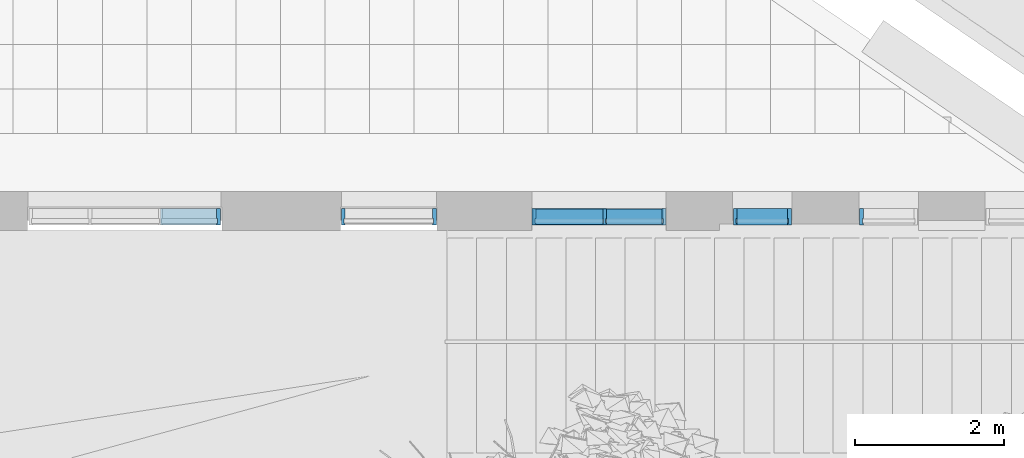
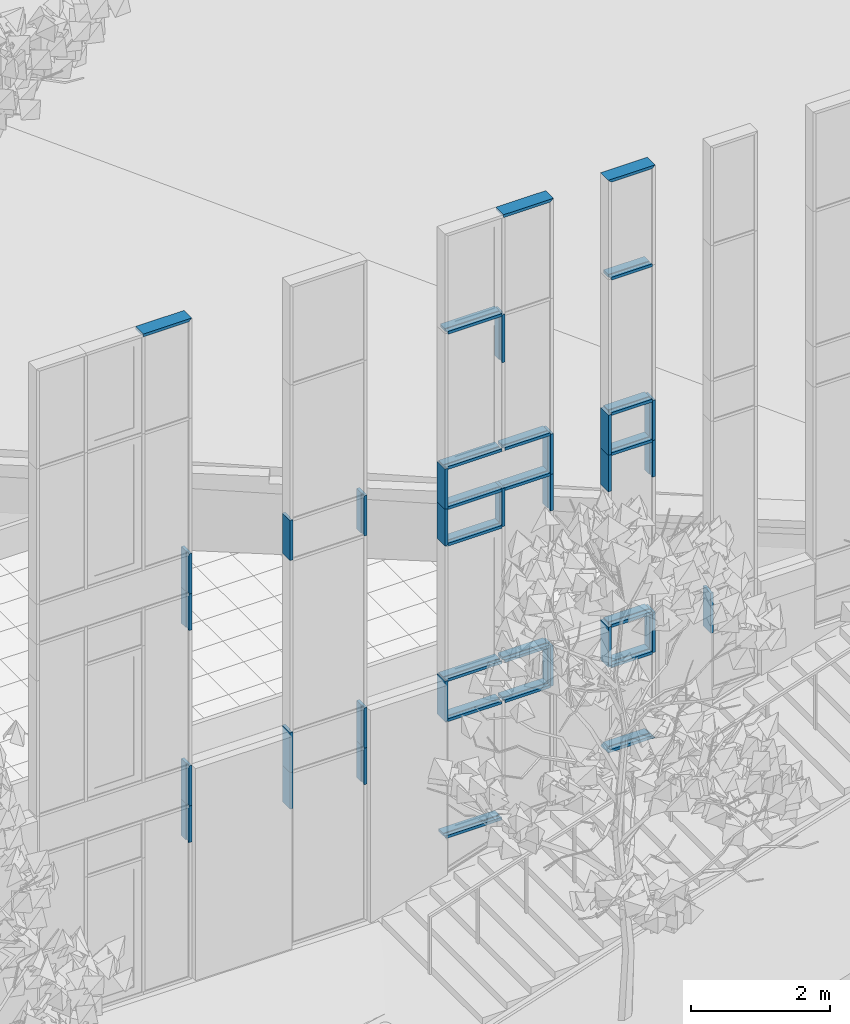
# One storey, part 46 of 246: 45 members, 5 elements without a shape of their own.
"""IFC2X3 building model written with IfcOpenShell, lengths in millimetres."""

from ifc_helpers import new_model, entity, si_unit, converted_unit, derived_unit, money_unit, direction, frame, origin_with_axes, place, context, subcontext, project, spatial, faceted_brep, source, transform, mapped, material, type_object, element, aggregate, save


model = new_model("IFC2X3")

# Units and contexts
model_context = context("Model", 3, precision=0.01, world=origin_with_axes(), true_north=direction((0.0, 1.0)))
body_context = subcontext(model_context, "Body", "Model", "MODEL_VIEW")
ifc_project = project(units=[si_unit("LENGTHUNIT", "METRE", prefix="MILLI"), si_unit("AREAUNIT", "SQUARE_METRE"), si_unit("VOLUMEUNIT", "CUBIC_METRE"), converted_unit("PLANEANGLEUNIT", "DEGREE", entity("IfcPlaneAngleMeasure", 0.0174532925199), si_unit("PLANEANGLEUNIT", "RADIAN"), dimensions=[0, 0, 0, 0, 0, 0, 0]), si_unit("SOLIDANGLEUNIT", "STERADIAN"), money_unit("EUR"), converted_unit("TIMEUNIT", "Year", entity("IfcTimeMeasure", 31556926.0), si_unit("TIMEUNIT", "SECOND"), dimensions=[0, 0, 1, 0, 0, 0, 0]), si_unit("MASSUNIT", "GRAM", prefix="KILO"), si_unit("THERMODYNAMICTEMPERATUREUNIT", "DEGREE_CELSIUS"), si_unit("LUMINOUSINTENSITYUNIT", "LUMEN"), si_unit("ENERGYUNIT", "JOULE", prefix="MEGA"), derived_unit("THERMALCONDUCTANCEUNIT", [(si_unit("POWERUNIT", "WATT"), 1), (si_unit("LENGTHUNIT", "METRE"), -1), (si_unit("THERMODYNAMICTEMPERATUREUNIT", "KELVIN"), -1)]), derived_unit("SPECIFICHEATCAPACITYUNIT", [(si_unit("ENERGYUNIT", "JOULE"), 1), (si_unit("MASSUNIT", "GRAM", prefix="KILO"), -1), (si_unit("THERMODYNAMICTEMPERATUREUNIT", "KELVIN"), -1)]), derived_unit("MASSDENSITYUNIT", [(si_unit("MASSUNIT", "GRAM", prefix="KILO"), 1), (si_unit("VOLUMEUNIT", "CUBIC_METRE"), -1)])], contexts=[model_context])

# Site, building, storey
site_placement = place(None, origin_with_axes())
site = spatial("IfcSite", under=ifc_project, at=site_placement, Name="L.Koidula tn 11b", CompositionType="ELEMENT")
building_placement = place(site_placement, origin_with_axes())
building = spatial("IfcBuilding", under=site, at=building_placement, Name="Rakvere Riigigümnaasium", CompositionType="ELEMENT")
storey_placement = place(building_placement, origin_with_axes())
storey = spatial("IfcBuildingStorey", under=building, at=storey_placement, Name="1.korrus 0,00", CompositionType="ELEMENT", Elevation=0.0)

# Curtain wall, members
curtain_wall_type = type_object("IfcCurtainWallType", Name="Curtain Wall Type", PredefinedType="NOTDEFINED")
curtain_wall_1_placement = place(storey_placement, frame((98799.9667993, 5111.45595337, 1534.99996364), z_axis=(0.0, 0.0, 1.0), x_axis=(1.0, 0.0, 0.0)))
curtain_wall_1 = element("IfcCurtainWall", 1, at=curtain_wall_1_placement, inside=storey, type_object=curtain_wall_type, Name="KLF-05-4A1")
ifc_material = material(Name="Alumiiniumprofiil (RAL 7021)")
member_type_1 = type_object("IfcMemberType", Name="Boundary Frame 50 x 222", PredefinedType="MULLION")
shared_shape_1 = source(origin_with_axes(), body_context, "Body", "Brep", [
    faceted_brep([(37.0, -32.5, 705.000000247), (37.0, 32.5, 705.000000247), (50.0, 32.5, 705.000000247), (50.0, 53.0, 705.000000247), (0.0, 53.0, 705.000000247), (0.0, -169.0, 705.000000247), (50.0, -169.0, 705.000000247), (50.0, -32.5, 705.000000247), (37.0, -32.5, 0.0), (37.0, 32.5, 0.0), (50.0, 32.5, 0.0), (50.0, 53.0, 0.0), (0.0, 53.0, 0.0), (0.0, -169.0, 0.0), (50.0, -169.0, 0.0), (50.0, -32.5, 0.0)], [[[0, 1, 2, 3, 4, 5, 6, 7]], [[1, 0, 8, 9]], [[10, 2, 1, 9]], [[2, 10, 11, 3]], [[12, 4, 3, 11]], [[13, 5, 4, 12]], [[14, 6, 5, 13]], [[15, 7, 6, 14]], [[0, 7, 15, 8]], [[8, 15, 14, 13, 12, 11, 10, 9]]]),
])
member_1_placement = place(curtain_wall_1_placement, frame((-389.999935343, -0.0026063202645, 2210.00002826), z_axis=(0.0, 0.0, -1.0), x_axis=(0.999999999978, 6.68287358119e-06, 0.0)))
member_1 = element("IfcMember", 2, at=member_1_placement, type_object=member_type_1, material=ifc_material, Name="KLF-05-7A-Profiilid", ObjectType="MULLION", context=body_context, shape_type="MappedRepresentation", body=[
    mapped(shared_shape_1, transform((0.0, 0.0, 0.0))),
])
member_2_placement = place(curtain_wall_1_placement, frame((-389.999935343, -0.0026063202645, 5930.00002826), z_axis=(0.0, 0.0, -1.0), x_axis=(0.999999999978, 6.68287358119e-06, 0.0)))
member_2 = element("IfcMember", 3, at=member_2_placement, type_object=member_type_1, material=ifc_material, Name="KLF-05-4A-Profiilid", ObjectType="MULLION", context=body_context, shape_type="MappedRepresentation", body=[
    mapped(shared_shape_1, transform((0.0, 0.0, 0.0))),
])
member_3_placement = place(curtain_wall_1_placement, frame((389.999935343, 0.00260632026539, 5225.00002826), z_axis=(0.0, 0.0, 1.0), x_axis=(-0.999999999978, -6.68287358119e-06, 0.0)))
member_3 = element("IfcMember", 4, at=member_3_placement, type_object=member_type_1, material=ifc_material, Name="KLF-05-8A-Profiilid", ObjectType="MULLION", context=body_context, shape_type="MappedRepresentation", body=[
    mapped(shared_shape_1, transform((0.0, 0.0, 0.0))),
])
member_4_placement = place(curtain_wall_1_placement, frame((389.999935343, 0.00260632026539, 1505.00002826), z_axis=(0.0, 0.0, 1.0), x_axis=(-0.999999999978, -6.68287358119e-06, 0.0)))
member_4 = element("IfcMember", 5, at=member_4_placement, type_object=member_type_1, material=ifc_material, Name="KLF-05-5A-Profiilid", ObjectType="MULLION", context=body_context, shape_type="MappedRepresentation", body=[
    mapped(shared_shape_1, transform((0.0, 0.0, 0.0))),
])

# Curtain wall, member
curtain_wall_2_placement = place(storey_placement, frame((100499.941472, 5111.64286466, 2044.99997146), z_axis=(0.0, 0.0, 1.0), x_axis=(1.0, 0.0, 0.0)))
curtain_wall_2 = element("IfcCurtainWall", 6, at=curtain_wall_2_placement, inside=storey, type_object=curtain_wall_type, Name="KLF-05-4A2")
member_5_placement = place(curtain_wall_2_placement, frame((-389.999798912, 0.0554782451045, 1700.0), z_axis=(0.0, 0.0, -1.0), x_axis=(0.999999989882, -0.000142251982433, 0.0)))
member_5 = element("IfcMember", 7, at=member_5_placement, type_object=member_type_1, material=ifc_material, Name="KLF-05-7A-Profiilid", ObjectType="MULLION", context=body_context, shape_type="MappedRepresentation", body=[
    mapped(shared_shape_1, transform((0.0, 0.0, 0.0))),
])
aggregate(curtain_wall_2, [member_5])

# Curtain wall, members
curtain_wall_3_placement = place(storey_placement, frame((93770.0000115, 5111.45334637, -1.61944652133e-05), z_axis=(0.0, 0.0, 1.0), x_axis=(1.0, 0.0, 0.0)))
curtain_wall_3 = element("IfcCurtainWall", 8, at=curtain_wall_3_placement, inside=storey, type_object=curtain_wall_type, Name="KLF-05-1E")
member_6_placement = place(curtain_wall_3_placement, frame((-640.000084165, 0.0, 7465.0), z_axis=(0.0, 0.0, -1.0), x_axis=(1.0, 0.0, 0.0)))
member_6 = element("IfcMember", 9, at=member_6_placement, type_object=member_type_1, material=ifc_material, Name="KLF-05-5A-Profiilid", ObjectType="MULLION", context=body_context, shape_type="MappedRepresentation", body=[
    mapped(shared_shape_1, transform((0.0, 0.0, 0.0))),
])
member_7_placement = place(curtain_wall_3_placement, frame((-640.000084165, 0.0, 3745.0), z_axis=(0.0, 0.0, -1.0), x_axis=(1.0, 0.0, 0.0)))
member_7 = element("IfcMember", 10, at=member_7_placement, type_object=member_type_1, material=ifc_material, Name="KLF-05-7A-Profiilid", ObjectType="MULLION", context=body_context, shape_type="MappedRepresentation", body=[
    mapped(shared_shape_1, transform((0.0, 0.0, 0.0))),
])
member_8_placement = place(curtain_wall_3_placement, frame((640.000084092, 0.0, 3040.0), z_axis=(0.0, 0.0, 1.0), x_axis=(-1.0, 0.0, 0.0)))
member_8 = element("IfcMember", 11, at=member_8_placement, type_object=member_type_1, material=ifc_material, Name="KLF-05-7A-Profiilid", ObjectType="MULLION", context=body_context, shape_type="MappedRepresentation", body=[
    mapped(shared_shape_1, transform((0.0, 0.0, 0.0))),
])
member_9_placement = place(curtain_wall_3_placement, frame((640.000084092, 0.0, 6760.0), z_axis=(0.0, 0.0, 1.0), x_axis=(-1.0, 0.0, 0.0)))
member_9 = element("IfcMember", 12, at=member_9_placement, type_object=member_type_1, material=ifc_material, Name="KLF-05-9A-Profiilid", ObjectType="MULLION", context=body_context, shape_type="MappedRepresentation", body=[
    mapped(shared_shape_1, transform((0.0, 0.0, 0.0))),
])

curtain_wall_4_placement = place(storey_placement, frame((96030.936158, 5111.45334637, 394.620798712), z_axis=(0.0, 0.0, 1.0), x_axis=(1.0, 0.0, 0.0)))
curtain_wall_4 = element("IfcCurtainWall", 13, at=curtain_wall_4_placement, inside=storey, type_object=curtain_wall_type, Name="KLF-05-2C")
member_10_placement = place(curtain_wall_4_placement, frame((1469.06406197, 0.0, 6365.37919319), z_axis=(0.0, 0.0, 1.0), x_axis=(-1.0, 0.0, 0.0)))
member_10 = element("IfcMember", 14, at=member_10_placement, type_object=member_type_1, material=ifc_material, Name="KLF-05-9C-Profiilid", ObjectType="MULLION", context=body_context, shape_type="MappedRepresentation", body=[
    mapped(shared_shape_1, transform((0.0, 0.0, 0.0))),
])
member_11_placement = place(curtain_wall_4_placement, frame((1469.06406197, 0.0, 2645.37919319), z_axis=(0.0, 0.0, 1.0), x_axis=(-1.0, 0.0, 0.0)))
member_11 = element("IfcMember", 15, at=member_11_placement, type_object=member_type_1, material=ifc_material, Name="KLF-05-6C-Profiilid", ObjectType="MULLION", context=body_context, shape_type="MappedRepresentation", body=[
    mapped(shared_shape_1, transform((0.0, 0.0, 0.0))),
])

curtain_wall_5_placement = place(storey_placement, frame((90220.0003282, 5111.43278481, -1.61944594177e-05), z_axis=(0.0, 0.0, 1.0), x_axis=(1.0, 0.0, 0.0)))
curtain_wall_5 = element("IfcCurtainWall", 16, at=curtain_wall_5_placement, inside=storey, type_object=curtain_wall_type, Name="KLF-05-3A")
member_12_placement = place(curtain_wall_5_placement, frame((1279.99946018, -0.0202452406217, 6760.0), z_axis=(0.0, 0.0, 1.0), x_axis=(-0.999999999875, 1.58166009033e-05, 0.0)))
member_12 = element("IfcMember", 17, at=member_12_placement, type_object=member_type_1, material=ifc_material, Name="KLF-05-0A-Profiilid", ObjectType="MULLION", context=body_context, shape_type="MappedRepresentation", body=[
    mapped(shared_shape_1, transform((0.0, 0.0, 0.0))),
])
member_13_placement = place(curtain_wall_5_placement, frame((1279.99946018, -0.0202452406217, 3040.0), z_axis=(0.0, 0.0, 1.0), x_axis=(-0.999999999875, 1.58166009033e-05, 0.0)))
member_13 = element("IfcMember", 18, at=member_13_placement, type_object=member_type_1, material=ifc_material, Name="KLF-05-7A-Profiilid", ObjectType="MULLION", context=body_context, shape_type="MappedRepresentation", body=[
    mapped(shared_shape_1, transform((0.0, 0.0, 0.0))),
])

# Member
shared_shape_2 = source(origin_with_axes(), body_context, "Body", "Brep", [
    faceted_brep([(37.0, -32.5, 640.0), (37.0, 32.5, 640.0), (50.0, 32.5, 640.0), (50.0, 53.0, 640.0), (0.0, 53.0, 640.0), (0.0, -169.0, 640.0), (50.0, -169.0, 640.0), (50.0, -32.5, 640.0), (37.0, -32.5, 0.0), (37.0, 32.5, 0.0), (50.0, 32.5, 0.0), (50.0, 53.0, 0.0), (0.0, 53.0, 0.0), (0.0, -169.0, 0.0), (50.0, -169.0, 0.0), (50.0, -32.5, 0.0)], [[[0, 1, 2, 3, 4, 5, 6, 7]], [[1, 0, 8, 9]], [[10, 2, 1, 9]], [[2, 10, 11, 3]], [[12, 4, 3, 11]], [[13, 5, 4, 12]], [[14, 6, 5, 13]], [[15, 7, 6, 14]], [[0, 7, 15, 8]], [[8, 15, 14, 13, 12, 11, 10, 9]]]),
])
member_14_placement = place(curtain_wall_1_placement, frame((-389.999935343, -0.0026063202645, 5225.00002826), z_axis=(0.0, 0.0, -1.0), x_axis=(0.999999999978, 6.68287358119e-06, 0.0)))
member_14 = element("IfcMember", 19, at=member_14_placement, type_object=member_type_1, material=ifc_material, Name="KLF-05-5A-Profiilid", ObjectType="MULLION", context=body_context, shape_type="MappedRepresentation", body=[
    mapped(shared_shape_2, transform((0.0, 0.0, 0.0))),
])

member_15_placement = place(curtain_wall_1_placement, frame((389.999935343, 0.00260632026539, 4585.00002826), z_axis=(0.0, 0.0, 1.0), x_axis=(-0.999999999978, -6.68287358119e-06, 0.0)))
member_15 = element("IfcMember", 20, at=member_15_placement, type_object=member_type_1, material=ifc_material, Name="KLF-05-7A-Profiilid", ObjectType="MULLION", context=body_context, shape_type="MappedRepresentation", body=[
    mapped(shared_shape_2, transform((0.0, 0.0, 0.0))),
])

member_16_placement = place(curtain_wall_3_placement, frame((-640.000084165, 0.0, 3040.0), z_axis=(0.0, 0.0, -1.0), x_axis=(1.0, 0.0, 0.0)))
member_16 = element("IfcMember", 21, at=member_16_placement, type_object=member_type_1, material=ifc_material, Name="KLF-05-8A-Profiilid", ObjectType="MULLION", context=body_context, shape_type="MappedRepresentation", body=[
    mapped(shared_shape_2, transform((0.0, 0.0, 0.0))),
])

member_17_placement = place(curtain_wall_3_placement, frame((640.000084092, 0.0, 2400.0), z_axis=(0.0, 0.0, 1.0), x_axis=(-1.0, 0.0, 0.0)))
member_17 = element("IfcMember", 22, at=member_17_placement, type_object=member_type_1, material=ifc_material, Name="KLF-05-6A-Profiilid", ObjectType="MULLION", context=body_context, shape_type="MappedRepresentation", body=[
    mapped(shared_shape_2, transform((0.0, 0.0, 0.0))),
])

aggregate(curtain_wall_3, [member_6, member_16, member_7, member_17, member_8, member_9])

member_18_placement = place(curtain_wall_4_placement, frame((1469.06406197, 0.0, 5725.37919319), z_axis=(0.0, 0.0, 1.0), x_axis=(-1.0, 0.0, 0.0)))
member_18 = element("IfcMember", 23, at=member_18_placement, type_object=member_type_1, material=ifc_material, Name="KLF-05-8C-Profiilid", ObjectType="MULLION", context=body_context, shape_type="MappedRepresentation", body=[
    mapped(shared_shape_2, transform((0.0, 0.0, 0.0))),
])

member_19_placement = place(curtain_wall_5_placement, frame((1279.99946018, -0.0202452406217, 6120.0), z_axis=(0.0, 0.0, 1.0), x_axis=(-0.999999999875, 1.58166009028e-05, 0.0)))
member_19 = element("IfcMember", 24, at=member_19_placement, type_object=member_type_1, material=ifc_material, Name="KLF-05-9A-Profiilid", ObjectType="MULLION", context=body_context, shape_type="MappedRepresentation", body=[
    mapped(shared_shape_2, transform((0.0, 0.0, 0.0))),
])

member_20_placement = place(curtain_wall_5_placement, frame((1279.99946018, -0.0202452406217, 2400.0), z_axis=(0.0, 0.0, 1.0), x_axis=(-0.999999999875, 1.58166009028e-05, 0.0)))
member_20 = element("IfcMember", 25, at=member_20_placement, type_object=member_type_1, material=ifc_material, Name="KLF-05-6A-Profiilid", ObjectType="MULLION", context=body_context, shape_type="MappedRepresentation", body=[
    mapped(shared_shape_2, transform((0.0, 0.0, 0.0))),
])

shared_shape_3 = source(origin_with_axes(), body_context, "Body", "Brep", [
    faceted_brep([(-37.0, -32.5, 705.0), (-50.0, -32.5, 705.0), (-50.0, -169.0, 705.0), (0.0, -169.0, 705.0), (0.0, 53.0, 705.0), (-50.0, 53.0, 705.0), (-50.0, 32.5, 705.0), (-37.0, 32.5, 705.0), (-37.0, -32.5, 0.0), (-50.0, -32.5, 0.0), (-50.0, -169.0, 0.0), (0.0, -169.0, 0.0), (0.0, 53.0, 0.0), (-50.0, 53.0, 0.0), (-50.0, 32.5, 0.0), (-37.0, 32.5, 0.0)], [[[0, 1, 2, 3, 4, 5, 6, 7]], [[0, 8, 9, 1]], [[9, 10, 2, 1]], [[10, 11, 3, 2]], [[11, 12, 4, 3]], [[12, 13, 5, 4]], [[6, 5, 13, 14]], [[14, 15, 7, 6]], [[7, 15, 8, 0]], [[8, 15, 14, 13, 12, 11, 10, 9]]]),
])
member_21_placement = place(curtain_wall_4_placement, frame((-330.936039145, 0.0, 6365.37919319), z_axis=(0.0, 0.0, 1.0), x_axis=(-1.0, 0.0, 0.0)))
member_21 = element("IfcMember", 26, at=member_21_placement, type_object=member_type_1, material=ifc_material, Name="KLF-05-6C-Profiilid", ObjectType="MULLION", context=body_context, shape_type="MappedRepresentation", body=[
    mapped(shared_shape_3, transform((0.0, 0.0, 0.0))),
])

member_22_placement = place(curtain_wall_4_placement, frame((-330.936039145, 0.0, 2645.37919319), z_axis=(0.0, 0.0, 1.0), x_axis=(-1.0, 0.0, 0.0)))
member_22 = element("IfcMember", 27, at=member_22_placement, type_object=member_type_1, material=ifc_material, Name="KLF-05-9C-Profiilid", ObjectType="MULLION", context=body_context, shape_type="MappedRepresentation", body=[
    mapped(shared_shape_3, transform((0.0, 0.0, 0.0))),
])

shared_shape_4 = source(origin_with_axes(), body_context, "Body", "Brep", [
    faceted_brep([(-37.0, -32.5, 640.0), (-50.0, -32.5, 640.0), (-50.0, -169.0, 640.0), (0.0, -169.0, 640.0), (0.0, 53.0, 640.0), (-50.0, 53.0, 640.0), (-50.0, 32.5, 640.0), (-37.0, 32.5, 640.0), (-37.0, -32.5, 0.0), (-50.0, -32.5, 0.0), (-50.0, -169.0, 0.0), (0.0, -169.0, 0.0), (0.0, 53.0, 0.0), (-50.0, 53.0, 0.0), (-50.0, 32.5, 0.0), (-37.0, 32.5, 0.0)], [[[0, 1, 2, 3, 4, 5, 6, 7]], [[0, 8, 9, 1]], [[9, 10, 2, 1]], [[10, 11, 3, 2]], [[11, 12, 4, 3]], [[12, 13, 5, 4]], [[6, 5, 13, 14]], [[14, 15, 7, 6]], [[7, 15, 8, 0]], [[8, 15, 14, 13, 12, 11, 10, 9]]]),
])
member_23_placement = place(curtain_wall_4_placement, frame((-330.936039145, 0.0, 5725.37919319), z_axis=(0.0, 0.0, 1.0), x_axis=(-1.0, 0.0, 0.0)))
member_23 = element("IfcMember", 28, at=member_23_placement, type_object=member_type_1, material=ifc_material, Name="KLF-05-7C-Profiilid", ObjectType="MULLION", context=body_context, shape_type="MappedRepresentation", body=[
    mapped(shared_shape_4, transform((0.0, 0.0, 0.0))),
])

member_type_2 = type_object("IfcMemberType", Name="Transom Frame 50 x 222", PredefinedType="MULLION")
shared_shape_5 = source(origin_with_axes(), body_context, "Body", "Brep", [
    faceted_brep([(-12.0, -32.5, 730.000405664), (-25.0, -32.5, 730.000405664), (-25.0, -169.0, 730.000405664), (25.0, -169.0, 730.000405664), (25.0, -32.5, 730.000405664), (12.0, -32.5, 730.000405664), (12.0, 32.5, 730.000405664), (25.0, 32.5, 730.000405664), (25.0, 53.0, 730.000405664), (-25.0, 53.0, 730.000405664), (-25.0, 32.5, 730.000405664), (-12.0, 32.5, 730.000405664), (-12.0, -32.5, 50.0), (-25.0, -32.5, 50.0), (-25.0, -169.0, 50.0), (25.0, -169.0, 50.0), (25.0, -32.5, 50.0), (12.0, -32.5, 50.0), (12.0, 32.5, 50.0), (25.0, 32.5, 50.0), (25.0, 53.0, 50.0), (-25.0, 53.0, 50.0), (-25.0, 32.5, 50.0), (-12.0, 32.5, 50.0)], [[[0, 1, 2, 3, 4, 5, 6, 7, 8, 9, 10, 11]], [[1, 0, 12, 13]], [[1, 13, 14, 2]], [[2, 14, 15, 3]], [[4, 3, 15, 16]], [[4, 16, 17, 5]], [[5, 17, 18, 6]], [[7, 6, 18, 19]], [[19, 20, 8, 7]], [[8, 20, 21, 9]], [[22, 10, 9, 21]], [[11, 10, 22, 23]], [[0, 11, 23, 12]], [[23, 22, 21, 20, 19, 18, 17, 16, 15, 14, 13, 12]]]),
])
member_24_placement = place(curtain_wall_1_placement, frame((-389.999935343, -0.0026063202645, 8305.00002826), z_axis=(0.999999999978, 6.68287358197e-06, 0.0), x_axis=(0.0, 0.0, 1.0)))
member_24 = element("IfcMember", 29, at=member_24_placement, type_object=member_type_2, material=ifc_material, Name="KLF-05-1A-Profiilid", ObjectType="MULLION", context=body_context, shape_type="MappedRepresentation", body=[
    mapped(shared_shape_5, transform((0.0, 0.0, 0.0))),
])

member_25_placement = place(curtain_wall_1_placement, frame((-389.999935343, -0.0026063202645, 5930.00002826), z_axis=(0.999999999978, 6.68287358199e-06, 0.0), x_axis=(0.0, 0.0, 1.0)))
member_25 = element("IfcMember", 30, at=member_25_placement, type_object=member_type_2, material=ifc_material, Name="KLF-05-2A-Profiilid", ObjectType="MULLION", context=body_context, shape_type="MappedRepresentation", body=[
    mapped(shared_shape_5, transform((0.0, 0.0, 0.0))),
])

member_26_placement = place(curtain_wall_1_placement, frame((-389.999935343, -0.0026063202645, 5225.00002826), z_axis=(0.999999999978, 6.68287358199e-06, 0.0), x_axis=(0.0, 0.0, 1.0)))
member_26 = element("IfcMember", 31, at=member_26_placement, type_object=member_type_2, material=ifc_material, Name="KLF-05-3A-Profiilid", ObjectType="MULLION", context=body_context, shape_type="MappedRepresentation", body=[
    mapped(shared_shape_5, transform((0.0, 0.0, 0.0))),
])

member_27_placement = place(curtain_wall_1_placement, frame((-389.999935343, -0.0026063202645, 2210.00002826), z_axis=(0.999999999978, 6.68287358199e-06, 0.0), x_axis=(0.0, 0.0, 1.0)))
member_27 = element("IfcMember", 32, at=member_27_placement, type_object=member_type_2, material=ifc_material, Name="KLF-05-6A-Profiilid", ObjectType="MULLION", context=body_context, shape_type="MappedRepresentation", body=[
    mapped(shared_shape_5, transform((0.0, 0.0, 0.0))),
])

member_28_placement = place(curtain_wall_1_placement, frame((-389.999935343, -0.0026063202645, 1505.00002826), z_axis=(0.999999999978, 6.68287358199e-06, 0.0), x_axis=(0.0, 0.0, 1.0)))
member_28 = element("IfcMember", 33, at=member_28_placement, type_object=member_type_2, material=ifc_material, Name="KLF-05-7A-Profiilid", ObjectType="MULLION", context=body_context, shape_type="MappedRepresentation", body=[
    mapped(shared_shape_5, transform((0.0, 0.0, 0.0))),
])

member_type_3 = type_object("IfcMemberType", Name="50 x 208", PredefinedType="MULLION")
shared_shape_6 = source(origin_with_axes(), body_context, "Body", "Brep", [
    faceted_brep([(-12.0, -27.0, 665.0), (-25.0, -27.0, 665.0), (-25.0, -160.0, 665.0), (25.0, -160.0, 665.0), (25.0, -27.0, 665.0), (12.0, -27.0, 665.0), (12.0, 27.0, 665.0), (25.0, 27.0, 665.0), (25.0, 48.0, 665.0), (-25.0, 48.0, 665.0), (-25.0, 27.0, 665.0), (-12.0, 27.0, 665.0), (-12.0, -27.0, 0.0), (-25.0, -27.0, 0.0), (-25.0, -160.0, 0.0), (25.0, -160.0, 0.0), (25.0, -27.0, 0.0), (12.0, -27.0, 0.0), (12.0, 27.0, 0.0), (25.0, 27.0, 0.0), (25.0, 48.0, 0.0), (-25.0, 48.0, 0.0), (-25.0, 27.0, 0.0), (-12.0, 27.0, 0.0)], [[[0, 1, 2, 3, 4, 5, 6, 7, 8, 9, 10, 11]], [[1, 0, 12, 13]], [[1, 13, 14, 2]], [[3, 2, 14, 15]], [[4, 3, 15, 16]], [[4, 16, 17, 5]], [[5, 17, 18, 6]], [[7, 6, 18, 19]], [[19, 20, 8, 7]], [[9, 8, 20, 21]], [[22, 10, 9, 21]], [[11, 10, 22, 23]], [[0, 11, 23, 12]], [[23, 22, 21, 20, 19, 18, 17, 16, 15, 14, 13, 12]]]),
])
member_29_placement = place(curtain_wall_4_placement, frame((644.063960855, 0.0, 5725.37919319), z_axis=(0.0, 0.0, 1.0), x_axis=(-1.0, 0.0, 0.0)))
member_29 = element("IfcMember", 34, at=member_29_placement, type_object=member_type_3, material=ifc_material, Name="KLF-96", ObjectType="MULLION", context=body_context, shape_type="MappedRepresentation", body=[
    mapped(shared_shape_6, transform((0.0, 0.0, 0.0))),
])

shared_shape_7 = source(origin_with_axes(), body_context, "Body", "Brep", [
    faceted_brep([(37.0, -32.5, 743.000405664), (37.0, 32.5, 743.000405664), (50.0, 32.5, 730.000405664), (50.0, 53.0, 730.000405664), (0.0, 53.0, 780.000405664), (0.0, -169.0, 780.000405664), (50.0, -169.0, 730.000405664), (50.0, -32.5, 730.000405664), (37.0, -32.5, 37.0), (37.0, 32.5, 37.0), (50.0, 32.5, 50.0), (50.0, 53.0, 50.0), (0.0, 53.0, 0.0), (0.0, -169.0, 0.0), (50.0, -169.0, 50.0), (50.0, -32.5, 50.0)], [[[0, 1, 2, 3, 4, 5, 6, 7]], [[1, 0, 8, 9]], [[10, 2, 1, 9]], [[2, 10, 11, 3]], [[4, 3, 11, 12]], [[5, 4, 12, 13]], [[6, 5, 13, 14]], [[15, 7, 6, 14]], [[0, 7, 15, 8]], [[8, 15, 14, 13, 12, 11, 10, 9]]]),
])
member_30_placement = place(curtain_wall_1_placement, frame((-389.999935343, -0.0026063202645, 0.0), z_axis=(0.999999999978, 6.68287358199e-06, 0.0), x_axis=(0.0, 0.0, 1.0)))
member_30 = element("IfcMember", 35, at=member_30_placement, type_object=member_type_1, material=ifc_material, Name="KLF-05-3A-Profiilid", ObjectType="MULLION", context=body_context, shape_type="MappedRepresentation", body=[
    mapped(shared_shape_7, transform((0.0, 0.0, 0.0))),
])

member_31_placement = place(curtain_wall_1_placement, frame((389.999944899, 0.00260632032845, 10050.0000534), z_axis=(-0.999999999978, -6.68287358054e-06, 0.0), x_axis=(0.0, 0.0, -1.0)))
member_31 = element("IfcMember", 36, at=member_31_placement, type_object=member_type_1, material=ifc_material, Name="KLF-05-1A-Profiilid", ObjectType="MULLION", context=body_context, shape_type="MappedRepresentation", body=[
    mapped(shared_shape_7, transform((0.0, 0.0, 0.0))),
])

aggregate(curtain_wall_1, [member_1, member_14, member_2, member_24, member_25, member_26, member_30, member_3, member_15, member_27, member_4, member_28, member_31])

shared_shape_8 = source(origin_with_axes(), body_context, "Body", "Brep", [
    faceted_brep([(-12.0, -32.5, 950.0), (-25.0, -32.5, 950.0), (-25.0, -169.0, 950.0), (25.0, -169.0, 950.0), (25.0, -32.5, 950.0), (12.0, -32.5, 950.0), (12.0, 32.5, 950.0), (25.0, 32.5, 950.0), (25.0, 53.0, 950.0), (-25.0, 53.0, 950.0), (-25.0, 32.5, 950.0), (-12.0, 32.5, 950.0), (-12.0, -32.5, 50.0), (-25.0, -32.5, 50.0), (-25.0, -169.0, 50.0), (25.0, -169.0, 50.0), (25.0, -32.5, 50.0), (12.0, -32.5, 50.0), (12.0, 32.5, 50.0), (25.0, 32.5, 50.0), (25.0, 53.0, 50.0), (-25.0, 53.0, 50.0), (-25.0, 32.5, 50.0), (-12.0, 32.5, 50.0)], [[[0, 1, 2, 3, 4, 5, 6, 7, 8, 9, 10, 11]], [[1, 0, 12, 13]], [[1, 13, 14, 2]], [[2, 14, 15, 3]], [[4, 3, 15, 16]], [[4, 16, 17, 5]], [[5, 17, 18, 6]], [[7, 6, 18, 19]], [[19, 20, 8, 7]], [[8, 20, 21, 9]], [[22, 10, 9, 21]], [[11, 10, 22, 23]], [[0, 11, 23, 12]], [[23, 22, 21, 20, 19, 18, 17, 16, 15, 14, 13, 12]]]),
])
member_32_placement = place(curtain_wall_4_placement, frame((-330.936039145, 0.0, 9445.37919319), z_axis=(1.0, 0.0, 0.0), x_axis=(0.0, 0.0, 1.0)))
member_32 = element("IfcMember", 37, at=member_32_placement, type_object=member_type_2, material=ifc_material, Name="KLF-05-2C-Profiilid", ObjectType="MULLION", context=body_context, shape_type="MappedRepresentation", body=[
    mapped(shared_shape_8, transform((0.0, 0.0, 0.0))),
])

member_type_4 = type_object("IfcMemberType", Name="Mullion Frame 50 x 222", PredefinedType="MULLION")
shared_shape_9 = source(origin_with_axes(), body_context, "Body", "Brep", [
    faceted_brep([(-12.0, -32.5, 840.0), (-25.0, -32.5, 840.0), (-25.0, -169.0, 840.0), (25.0, -169.0, 840.0), (25.0, -32.5, 840.0), (12.0, -32.5, 840.0), (12.0, 32.5, 840.0), (25.0, 32.5, 840.0), (25.0, 53.0, 840.0), (-25.0, 53.0, 840.0), (-25.0, 32.5, 840.0), (-12.0, 32.5, 840.0), (-12.0, -32.5, 0.0), (-25.0, -32.5, 0.0), (-25.0, -169.0, 0.0), (25.0, -169.0, 0.0), (25.0, -32.5, 0.0), (12.0, -32.5, 0.0), (12.0, 32.5, 0.0), (25.0, 32.5, 0.0), (25.0, 53.0, 0.0), (-25.0, 53.0, 0.0), (-25.0, 32.5, 0.0), (-12.0, 32.5, 0.0)], [[[0, 1, 2, 3, 4, 5, 6, 7, 8, 9, 10, 11]], [[1, 0, 12, 13]], [[1, 13, 14, 2]], [[3, 2, 14, 15]], [[4, 3, 15, 16]], [[4, 16, 17, 5]], [[5, 17, 18, 6]], [[7, 6, 18, 19]], [[19, 20, 8, 7]], [[9, 8, 20, 21]], [[22, 10, 9, 21]], [[11, 10, 22, 23]], [[0, 11, 23, 12]], [[23, 22, 21, 20, 19, 18, 17, 16, 15, 14, 13, 12]]]),
])
member_33_placement = place(curtain_wall_4_placement, frame((644.063960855, 0.0, 8605.37919319), z_axis=(0.0, 0.0, 1.0), x_axis=(-1.0, 0.0, 0.0)))
member_33 = element("IfcMember", 38, at=member_33_placement, type_object=member_type_4, material=ifc_material, Name="KLF-05-2C-Profiilid", ObjectType="MULLION", context=body_context, shape_type="MappedRepresentation", body=[
    mapped(shared_shape_9, transform((0.0, 0.0, 0.0))),
])

shared_shape_10 = source(origin_with_axes(), body_context, "Body", "Brep", [
    faceted_brep([(-12.0, -27.0, 932.191882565), (-25.0, -27.0, 932.191882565), (-25.0, -160.0, 932.191882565), (25.0, -160.0, 932.191882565), (25.0, -27.0, 932.191882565), (12.0, -27.0, 932.191882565), (12.0, 27.0, 932.191882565), (25.0, 27.0, 932.191882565), (25.0, 48.0, 932.191882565), (-25.0, 48.0, 932.191882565), (-25.0, 27.0, 932.191882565), (-12.0, 27.0, 932.191882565), (-12.0, -27.0, 0.0), (-25.0, -27.0, 0.0), (-25.0, -160.0, 0.0), (25.0, -160.0, 0.0), (25.0, -27.0, 0.0), (12.0, -27.0, 0.0), (12.0, 27.0, 0.0), (25.0, 27.0, 0.0), (25.0, 48.0, 0.0), (-25.0, 48.0, 0.0), (-25.0, 27.0, 0.0), (-12.0, 27.0, 0.0)], [[[0, 1, 2, 3, 4, 5, 6, 7, 8, 9, 10, 11]], [[1, 0, 12, 13]], [[1, 13, 14, 2]], [[3, 2, 14, 15]], [[4, 3, 15, 16]], [[4, 16, 17, 5]], [[5, 17, 18, 6]], [[7, 6, 18, 19]], [[19, 20, 8, 7]], [[9, 8, 20, 21]], [[22, 10, 9, 21]], [[11, 10, 22, 23]], [[0, 11, 23, 12]], [[23, 22, 21, 20, 19, 18, 17, 16, 15, 14, 13, 12]]]),
])
member_34_placement = place(curtain_wall_4_placement, frame((-313.12792171, 0.0, 605.379193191), z_axis=(1.0, 0.0, 0.0), x_axis=(0.0, 0.0, 1.0)))
member_34 = element("IfcMember", 39, at=member_34_placement, type_object=member_type_3, material=ifc_material, Name="KLF-40", ObjectType="MULLION", context=body_context, shape_type="MappedRepresentation", body=[
    mapped(shared_shape_10, transform((0.0, 0.0, 0.0))),
])

member_35_placement = place(curtain_wall_4_placement, frame((-313.12792171, 0.0, 2645.37919319), z_axis=(1.0, 0.0, 0.0), x_axis=(0.0, 0.0, 1.0)))
member_35 = element("IfcMember", 40, at=member_35_placement, type_object=member_type_3, material=ifc_material, Name="KLF-82", ObjectType="MULLION", context=body_context, shape_type="MappedRepresentation", body=[
    mapped(shared_shape_10, transform((0.0, 0.0, 0.0))),
])

member_36_placement = place(curtain_wall_4_placement, frame((-313.12792171, 0.0, 3350.37919319), z_axis=(1.0, 0.0, 0.0), x_axis=(0.0, 0.0, 1.0)))
member_36 = element("IfcMember", 41, at=member_36_placement, type_object=member_type_3, material=ifc_material, Name="KLF-84", ObjectType="MULLION", context=body_context, shape_type="MappedRepresentation", body=[
    mapped(shared_shape_10, transform((0.0, 0.0, 0.0))),
])

member_37_placement = place(curtain_wall_4_placement, frame((-313.12792171, 0.0, 5725.37919319), z_axis=(1.0, 0.0, 0.0), x_axis=(0.0, 0.0, 1.0)))
member_37 = element("IfcMember", 42, at=member_37_placement, type_object=member_type_3, material=ifc_material, Name="KLF-15", ObjectType="MULLION", context=body_context, shape_type="MappedRepresentation", body=[
    mapped(shared_shape_10, transform((0.0, 0.0, 0.0))),
])

member_38_placement = place(curtain_wall_4_placement, frame((-313.12792171, 0.0, 6365.37919319), z_axis=(1.0, 0.0, 0.0), x_axis=(0.0, 0.0, 1.0)))
member_38 = element("IfcMember", 43, at=member_38_placement, type_object=member_type_3, material=ifc_material, Name="KLF-17", ObjectType="MULLION", context=body_context, shape_type="MappedRepresentation", body=[
    mapped(shared_shape_10, transform((0.0, 0.0, 0.0))),
])

member_39_placement = place(curtain_wall_4_placement, frame((-313.12792171, 0.0, 7070.37919319), z_axis=(1.0, 0.0, 0.0), x_axis=(0.0, 0.0, 1.0)))
member_39 = element("IfcMember", 44, at=member_39_placement, type_object=member_type_3, material=ifc_material, Name="KLF-50", ObjectType="MULLION", context=body_context, shape_type="MappedRepresentation", body=[
    mapped(shared_shape_10, transform((0.0, 0.0, 0.0))),
])

shared_shape_11 = source(origin_with_axes(), body_context, "Body", "Brep", [
    faceted_brep([(37.0, -32.5, 805.000075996), (37.0, 32.5, 805.000075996), (50.0, 32.5, 805.000075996), (50.0, 53.0, 805.000075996), (0.0, 53.0, 805.000075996), (0.0, -169.0, 805.000075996), (50.0, -169.0, 805.000075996), (50.0, -32.5, 805.000075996), (37.0, -32.5, 37.0), (37.0, 32.5, 37.0), (50.0, 32.5, 50.0), (50.0, 53.0, 50.0), (0.0, 53.0, 0.0), (0.0, -169.0, 0.0), (50.0, -169.0, 50.0), (50.0, -32.5, 50.0)], [[[0, 1, 2, 3, 4, 5, 6, 7]], [[1, 0, 8, 9]], [[10, 2, 1, 9]], [[2, 10, 11, 3]], [[4, 3, 11, 12]], [[5, 4, 12, 13]], [[6, 5, 13, 14]], [[15, 7, 6, 14]], [[0, 7, 15, 8]], [[8, 15, 14, 13, 12, 11, 10, 9]]]),
])
member_40_placement = place(curtain_wall_5_placement, frame((1279.99953334, -0.0202452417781, 11590.0000411), z_axis=(-0.999999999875, 1.58166009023e-05, 0.0), x_axis=(0.0, 0.0, -1.0)))
member_40 = element("IfcMember", 45, at=member_40_placement, type_object=member_type_1, material=ifc_material, Name="KLF-05-3A-Profiilid", ObjectType="MULLION", context=body_context, shape_type="MappedRepresentation", body=[
    mapped(shared_shape_11, transform((0.0, 0.0, 0.0))),
])

aggregate(curtain_wall_5, [member_12, member_19, member_13, member_20, member_40])

shared_shape_12 = source(origin_with_axes(), body_context, "Body", "Brep", [
    faceted_brep([(37.0, -32.5, 825.0), (37.0, 32.5, 825.0), (50.0, 32.5, 825.0), (50.0, 53.0, 825.0), (0.0, 53.0, 825.0), (0.0, -169.0, 825.0), (50.0, -169.0, 825.0), (50.0, -32.5, 825.0), (37.0, -32.5, 37.0), (37.0, 32.5, 37.0), (50.0, 32.5, 50.0), (50.0, 53.0, 50.0), (0.0, 53.0, 0.0), (0.0, -169.0, 0.0), (50.0, -169.0, 50.0), (50.0, -32.5, 50.0)], [[[0, 1, 2, 3, 4, 5, 6, 7]], [[1, 0, 8, 9]], [[10, 2, 1, 9]], [[2, 10, 11, 3]], [[4, 3, 11, 12]], [[5, 4, 12, 13]], [[6, 5, 13, 14]], [[15, 7, 6, 14]], [[0, 7, 15, 8]], [[8, 15, 14, 13, 12, 11, 10, 9]]]),
])
member_41_placement = place(curtain_wall_4_placement, frame((1469.0638211, 0.0, 11195.0000092), z_axis=(-1.0, 0.0, 0.0), x_axis=(0.0, 0.0, -1.0)))
member_41 = element("IfcMember", 46, at=member_41_placement, type_object=member_type_1, material=ifc_material, Name="KLF-05-2C-Profiilid", ObjectType="MULLION", context=body_context, shape_type="MappedRepresentation", body=[
    mapped(shared_shape_12, transform((0.0, 0.0, 0.0))),
])

shared_shape_13 = source(origin_with_axes(), body_context, "Body", "Brep", [
    faceted_brep([(-12.0, -27.0, 775.000100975), (-25.0, -27.0, 775.000100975), (-25.0, -160.0, 775.000100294), (25.0, -160.0, 775.000100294), (25.0, -27.0, 775.000100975), (12.0, -27.0, 775.000100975), (12.0, 27.0, 775.000101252), (25.0, 27.0, 775.000101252), (25.0, 48.0, 775.000101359), (-25.0, 48.0, 775.000101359), (-25.0, 27.0, 775.000101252), (-12.0, 27.0, 775.000101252), (-12.0, -27.0, 25.0), (-25.0, -27.0, 25.0), (-25.0, -160.0, 25.0), (25.0, -160.0, 25.0), (25.0, -27.0, 25.0), (12.0, -27.0, 25.0), (12.0, 27.0, 25.0), (25.0, 27.0, 25.0), (25.0, 48.0, 25.0), (-25.0, 48.0, 25.0), (-25.0, 27.0, 25.0), (-12.0, 27.0, 25.0)], [[[0, 1, 2, 3, 4, 5, 6, 7, 8, 9, 10, 11]], [[1, 0, 12, 13]], [[1, 13, 14, 2]], [[2, 14, 15, 3]], [[4, 3, 15, 16]], [[4, 16, 17, 5]], [[5, 17, 18, 6]], [[7, 6, 18, 19]], [[19, 20, 8, 7]], [[8, 20, 21, 9]], [[22, 10, 9, 21]], [[11, 10, 22, 23]], [[0, 11, 23, 12]], [[23, 22, 21, 20, 19, 18, 17, 16, 15, 14, 13, 12]]]),
])
member_42_placement = place(curtain_wall_4_placement, frame((644.063960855, 0.0, 7070.37919319), z_axis=(1.0, 0.0, 0.0), x_axis=(0.0, 0.0, 1.0)))
member_42 = element("IfcMember", 47, at=member_42_placement, type_object=member_type_3, material=ifc_material, Name="KLF-57", ObjectType="MULLION", context=body_context, shape_type="MappedRepresentation", body=[
    mapped(shared_shape_13, transform((0.0, 0.0, 0.0))),
])

member_43_placement = place(curtain_wall_4_placement, frame((644.063960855, 0.0, 6365.37919319), z_axis=(1.0, 0.0, 0.0), x_axis=(0.0, 0.0, 1.0)))
member_43 = element("IfcMember", 48, at=member_43_placement, type_object=member_type_3, material=ifc_material, Name="KLF-33", ObjectType="MULLION", context=body_context, shape_type="MappedRepresentation", body=[
    mapped(shared_shape_13, transform((0.0, 0.0, 0.0))),
])

member_44_placement = place(curtain_wall_4_placement, frame((644.063960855, 0.0, 3350.37919319), z_axis=(1.0, 0.0, 0.0), x_axis=(0.0, 0.0, 1.0)))
member_44 = element("IfcMember", 49, at=member_44_placement, type_object=member_type_3, material=ifc_material, Name="KLF-08", ObjectType="MULLION", context=body_context, shape_type="MappedRepresentation", body=[
    mapped(shared_shape_13, transform((0.0, 0.0, 0.0))),
])

member_45_placement = place(curtain_wall_4_placement, frame((644.063960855, 0.0, 2645.37919319), z_axis=(1.0, 0.0, 0.0), x_axis=(0.0, 0.0, 1.0)))
member_45 = element("IfcMember", 50, at=member_45_placement, type_object=member_type_3, material=ifc_material, Name="KLF-09", ObjectType="MULLION", context=body_context, shape_type="MappedRepresentation", body=[
    mapped(shared_shape_13, transform((0.0, 0.0, 0.0))),
])

aggregate(curtain_wall_4, [member_34, member_35, member_36, member_21, member_23, member_29, member_37, member_38, member_39, member_32, member_33, member_22, member_42, member_10, member_43, member_18, member_44, member_11, member_45, member_41])

save(model, "model.ifc")
